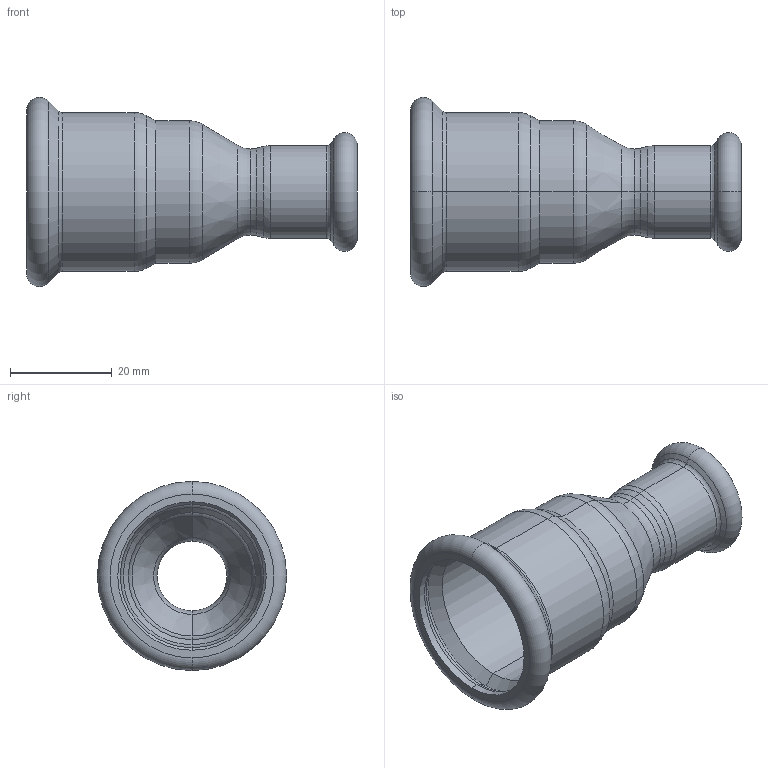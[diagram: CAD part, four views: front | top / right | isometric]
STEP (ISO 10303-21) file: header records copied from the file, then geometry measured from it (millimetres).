
FILE_DESCRIPTION (( 'STEP AP214' ), '1' );
FILE_NAME ('R281500.STEP', '2025-08-17T15:15:14', ( '' ), ( '' ), 'SwSTEP 2.0', 'SolidWorks 2020', '' );
FILE_SCHEMA (( 'AUTOMOTIVE_DESIGN' ));
Length unit declared in the file: millimetre
Products named in the file (1): R281500
Bounding box: 65 x 37.19 x 37.19 mm (x, y, z)
Volume: 8754.6 mm3; surface area: 11352.5 mm2
Topology: 1 solids, 1 shells, 76 faces, 152 edges, 80 vertices
Faces by surface type: torus 36, cone 20, cylinder 16, plane 4
Entity records: 2746 total; most frequent: DIRECTION 422, CARTESIAN_POINT 309, ORIENTED_EDGE 304, AXIS2_PLACEMENT_3D 193, EDGE_CURVE 152, CIRCLE 116, VERTEX_POINT 80, EDGE_LOOP 80
